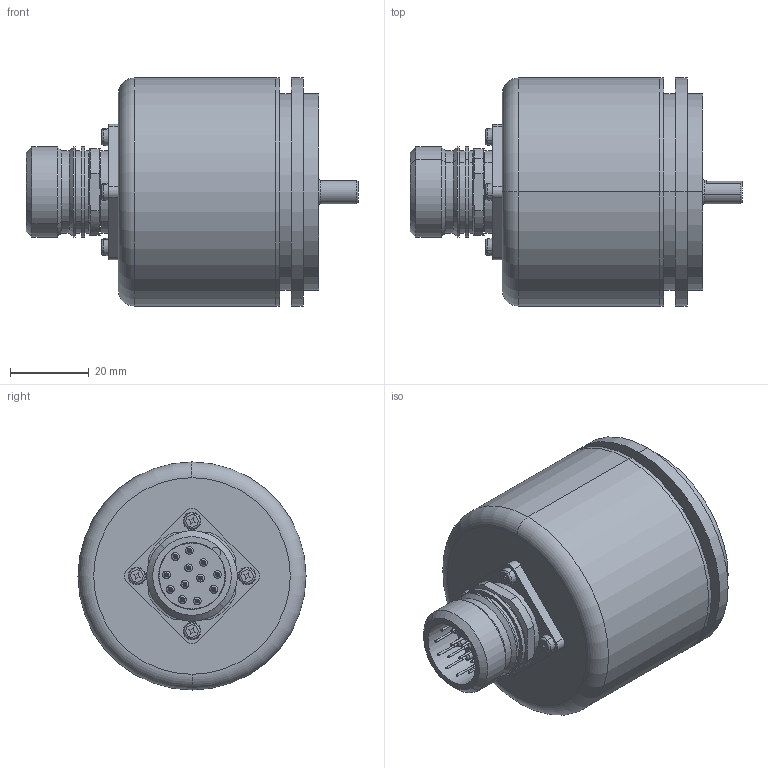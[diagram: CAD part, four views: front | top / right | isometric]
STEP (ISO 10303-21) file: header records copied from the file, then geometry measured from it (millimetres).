
FILE_DESCRIPTION (( 'STEP AP214' ), '1' );
FILE_NAME ('5805.21X3.STEP', '2007-12-06T09:55:57', ( 'DanneckerS' ), ( ' ' ), 'SwSTEP 2.0', 'SolidWorks 2007', '' );
FILE_SCHEMA (( 'AUTOMOTIVE_DESIGN' ));
Length unit declared in the file: millimetre
Products named in the file (1): 5805.21X3
Bounding box: 84.45 x 58 x 58 mm (x, y, z)
Surface area: 23695.4 mm2 (no closed solid volume)
Topology: 0 solids, 33 shells, 281 faces, 751 edges, 494 vertices
Faces by surface type: cylinder 119, plane 67, torus 44, cone 27, sphere 24
Entity records: 11857 total; most frequent: DIRECTION 1749, CARTESIAN_POINT 1541, ORIENTED_EDGE 1243, AXIS2_PLACEMENT_3D 750, EDGE_CURVE 727, VERTEX_POINT 494, CIRCLE 468, EDGE_LOOP 338
